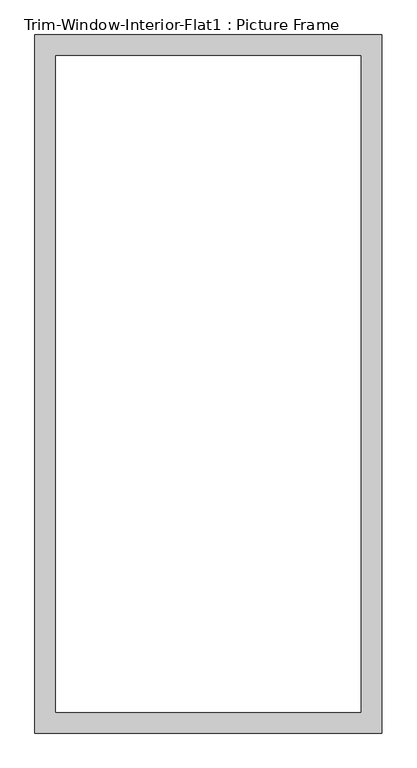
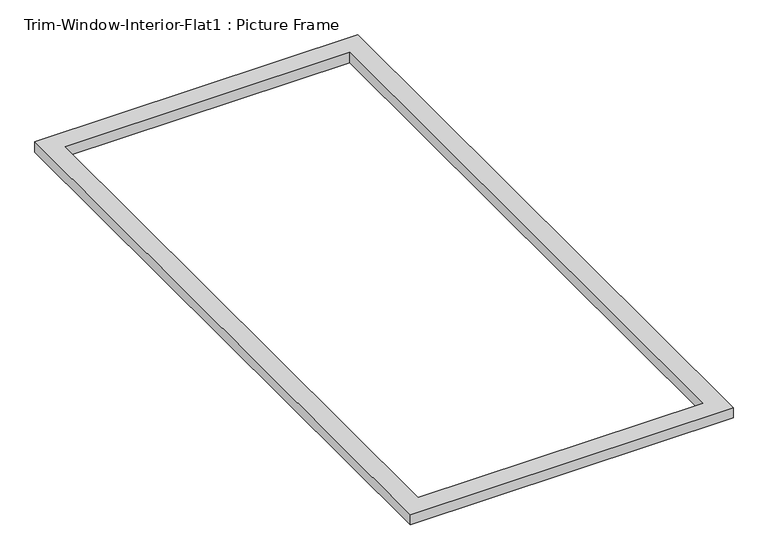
"""IFC4 building model written with IfcOpenShell, lengths in millimetres: proxy geometry, Trim-Window-Interior-Flat1 : Picture Frame."""

from ifc_helpers import new_model, si_unit, origin, origin_with_axes, place, context, project, spatial, polyline, outline, extrude, source, transform, mapped, element, save


def trim_window_interior_flat1_picture_frame_5102ef56(model_context):
    return source(origin(), model_context, "Body", "SweptSolid", [
        extrude(outline(polyline([(476.25, -44.45), (-476.25, -44.45), (-476.25, 1873.25), (476.25, 1873.25), (476.25, -44.45)]), holes=[polyline([(419.1, 12.7), (419.1, 1816.1), (-419.1, 1816.1), (-419.1, 12.7), (419.1, 12.7)])]), origin_with_axes(), (0.0, 0.0, 1.0), 31.75),
    ])


if __name__ == "__main__":
    model = new_model("IFC4")
    model_context = context("Model", 3, world=origin())
    ifc_project = project(units=[si_unit("LENGTHUNIT", "METRE", prefix="MILLI")], contexts=[model_context])
    site = spatial("IfcSite", under=ifc_project)
    building = spatial("IfcBuilding", under=site)
    placement = place(None, origin())
    trim_window_interior_flat1_picture_frame_shape = trim_window_interior_flat1_picture_frame_5102ef56(model_context)
    element("IfcBuildingElementProxy", 1, Name="Trim-Window-Interior-Flat1 : Picture Frame", ObjectType="Trim-Window-Interior-Flat1 : Picture Frame", at=placement, inside=building, context=model_context, shape_type="MappedRepresentation", body=[
        mapped(trim_window_interior_flat1_picture_frame_shape, transform((0.0, 0.0, 0.0), x_axis=(1.0, 0.0, 0.0), y_axis=(0.0, 1.0, 0.0), z_axis=(0.0, 0.0, 1.0))),
    ])
    save(model, "model.ifc")
